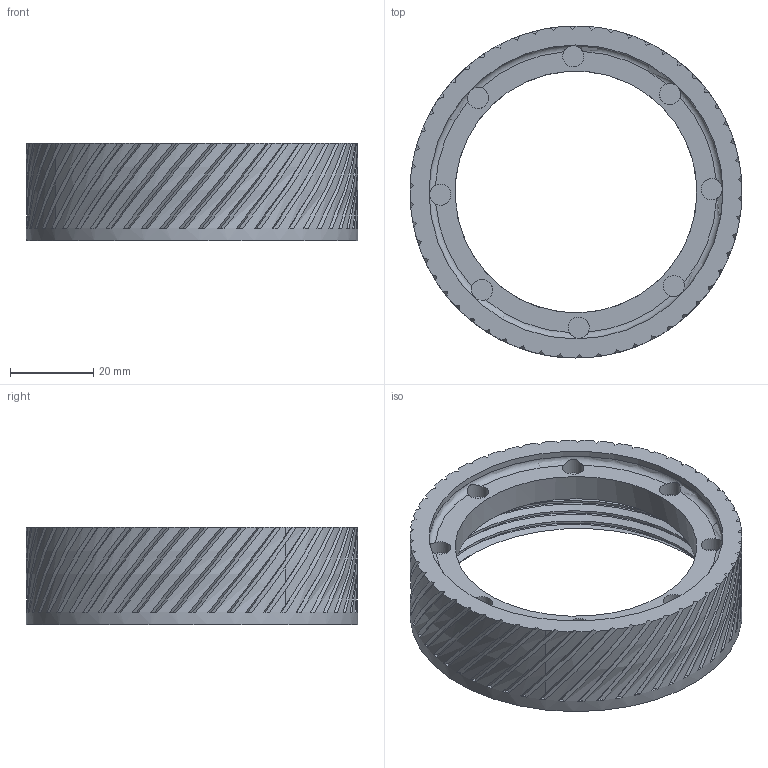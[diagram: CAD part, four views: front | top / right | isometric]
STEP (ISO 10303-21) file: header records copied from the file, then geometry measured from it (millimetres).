
FILE_DESCRIPTION(/* description */ ('STEP AP242','CAx-IF Rec.Pracs.---Representation and Presentation of Product Manufacturing Information (PMI)---4.0---2014-10-13','CAx-IF Rec.Pracs.---3D Tessellated Geometry---0.4---2014-09-14','2;1'),/* implementation_level */ '2;1');
FILE_NAME(/* name */ '64692596cac4670533c20f2c',/* time_stamp */ '2023-05-20T19:55:02Z',/* author */ (''),/* organization */ (''),/* preprocessor_version */ 'ST-DEVELOPER v19.4',/* originating_system */ ' ',/* authorisation */ ' ');
FILE_SCHEMA (('AP242_MANAGED_MODEL_BASED_3D_ENGINEERING_MIM_LF { 1 0 10303 442 1 1 4 }'));
Length unit declared in the file: metre
Products named in the file (1): Base 24mm Magnet NoLug
Bounding box: 79.6 x 79.6 x 23.4 mm (x, y, z)
Volume: 31997.2 mm3; surface area: 17603.9 mm2
Topology: 1 solids, 1 shells, 240 faces, 703 edges, 469 vertices
Faces by surface type: bspline 132, plane 87, cylinder 16, cone 4, torus 1
Full cylindrical faces by diameter (mm): 5.1 x8, 58 x1, 70.5 x1, 79.6 x1
Entity records: 14387 total; most frequent: CARTESIAN_POINT 9714, ORIENTED_EDGE 1332, EDGE_CURVE 666, DIRECTION 534, VERTEX_POINT 449, B_SPLINE_CURVE_WITH_KNOTS 321, EDGE_LOOP 255, FACE_BOUND 255
